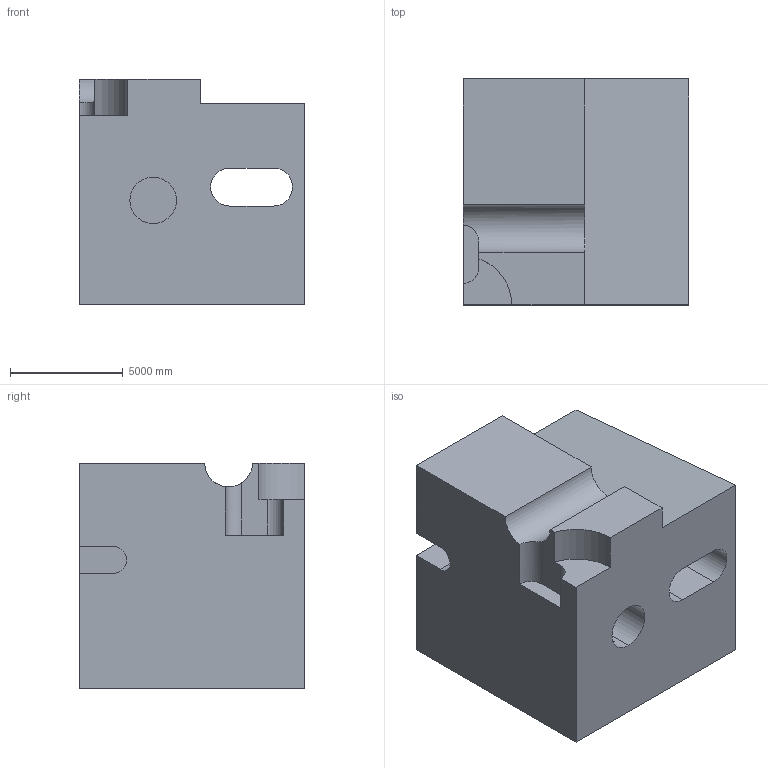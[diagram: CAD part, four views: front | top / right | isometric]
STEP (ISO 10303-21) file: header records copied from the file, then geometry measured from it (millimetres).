
FILE_DESCRIPTION (( 'STEP AP203' ), '1' );
FILE_NAME ('747.STEP', '2022-07-29T12:55:28', ( 'user' ), ( '' ), 'SwSTEP 2.0', 'SolidWorks 2021', '' );
FILE_SCHEMA (( 'CONFIG_CONTROL_DESIGN' ));
Length unit declared in the file: centimetre
Products named in the file (1): 747
Bounding box: 10000 x 10000 x 10000 mm (x, y, z)
Volume: 811602601065.1 mm3; surface area: 752997413.1 mm2
Topology: 1 solids, 1 shells, 32 faces, 87 edges, 58 vertices
Faces by surface type: plane 23, cylinder 9
Entity records: 1153 total; most frequent: CARTESIAN_POINT 237, ORIENTED_EDGE 174, DIRECTION 172, EDGE_CURVE 87, VECTOR 66, LINE 66, VERTEX_POINT 58, AXIS2_PLACEMENT_3D 53
